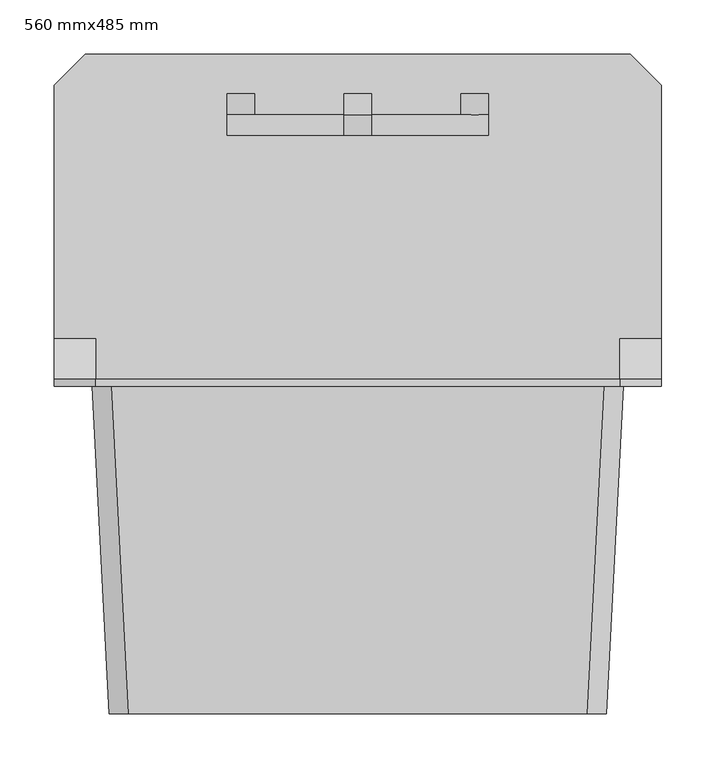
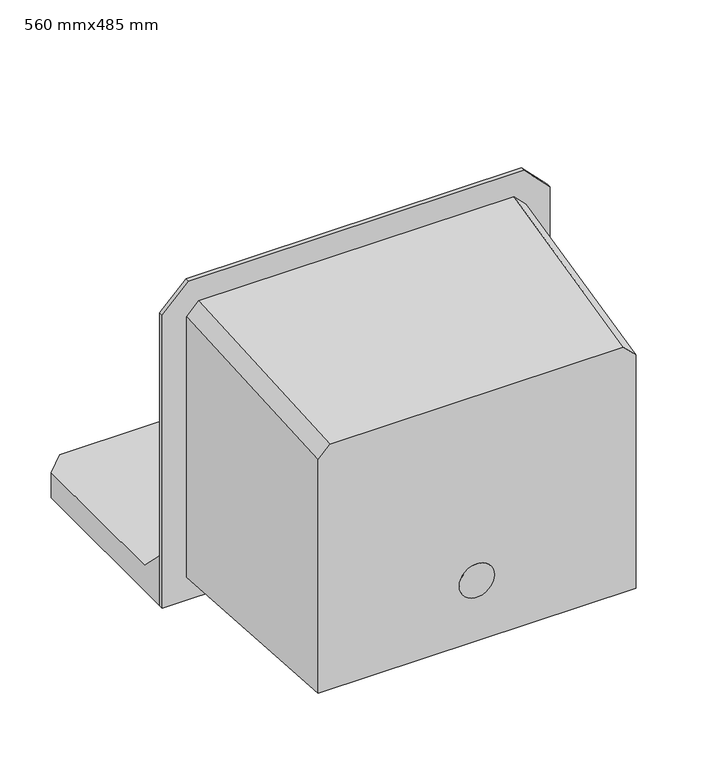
"""IFC4 building model written with IfcOpenShell, lengths in millimetres: flow terminal geometry, 洗涤池 - 服务用 : 560 mmx485 mm."""

from ifc_helpers import new_model, si_unit, point, frame, frame_2d, origin, place, context, project, spatial, circle_curve, trimmed, segment, composite_curve, outline, extrude, faceted_brep, source, transform, mapped, element, save
from ifc_brep_helpers import plane_surface, cylinder_surface, advanced_brep


def flow_terminal_560_mmx485_mm_975d8588(model_context):
    return source(origin(), model_context, "Body", "SolidModel", [
        extrude(outline(composite_curve([segment(trimmed(circle_curve(frame_2d((127.0, 0.0)), 25.4), [point((127.0, -25.4))], [point((127.0, 25.4))], False, "CARTESIAN"), True, "CONTINUOUS"), segment(trimmed(circle_curve(frame_2d((127.0, 0.0)), 25.4), [point((127.0, 25.4))], [point((127.0, -25.4))], False, "CARTESIAN"), True, "CONTINUOUS")], self_intersect=False)), frame((0.0, -308.175, 0.0), z_axis=(0.0, 1.0, 0.0), x_axis=(0.0, 0.0, 1.0)), (0.0, 0.0, 1.0), 3.175),
        faceted_brep([(211.7375, -308.175, 408.8), (-211.7375, -308.175, 408.8), (-229.2, -308.175, 391.3375), (-229.2, -308.175, 34.925), (229.2, -308.175, 34.925), (229.2, -308.175, 391.3375), (245.075, -6.35, 432.4335913), (227.4335913, -6.35, 450.075), (245.075, -6.35, 34.925), (-245.075, -6.35, 34.925), (-245.075, -6.35, 432.4335913), (-227.4335913, -6.35, 450.075), (211.7375, -305.0, 405.625), (226.025, -305.0, 391.3375), (226.025, -305.0, 38.1), (-226.025, -305.0, 38.1), (-226.025, -305.0, 391.3375), (-211.7375, -305.0, 405.625), (226.1184633, -6.35, 446.9), (241.9, -6.35, 431.1184633), (241.9, -6.35, 38.1), (241.9, 0.0, 38.1), (-241.9, 0.0, 38.1), (-241.9, -6.35, 38.1), (-241.9, -6.35, 431.1184633), (-226.1184633, -6.35, 446.9), (241.9, -6.35, 485.0), (-241.9, -6.35, 485.0), (-280.0, -6.35, 446.9), (-280.0, -6.35, 0.0), (280.0, -6.35, 0.0), (280.0, -6.35, 446.9), (241.9, 0.0, 485.0), (280.0, 0.0, 446.9), (280.0, 0.0, 0.0), (-280.0, 0.0, 0.0), (-280.0, 0.0, 446.9), (-241.9, 0.0, 485.0), (226.1184633, 0.0, 446.9), (-226.1184633, 0.0, 446.9), (-241.9, 0.0, 431.1184633), (241.9, 0.0, 431.1184633)], [[[0, 1, 2, 3, 4, 5]], [[0, 5, 6, 7]], [[5, 4, 8, 6]], [[4, 3, 9, 8]], [[3, 2, 10, 9]], [[2, 1, 11, 10]], [[1, 0, 7, 11]], [[12, 13, 14, 15, 16, 17]], [[13, 12, 18, 19]], [[14, 13, 19, 20]], [[15, 14, 20, 21, 22, 23]], [[16, 15, 23, 24]], [[17, 16, 24, 25]], [[12, 17, 25, 18]], [[26, 27, 28, 29, 30, 31], [7, 6, 8, 9, 10, 11]], [[32, 33, 34, 35, 36, 37], [38, 39, 40, 22, 21, 41]], [[27, 26, 32, 37]], [[28, 27, 37, 36]], [[29, 28, 36, 35]], [[30, 29, 35, 34]], [[31, 30, 34, 33]], [[26, 31, 33, 32]], [[38, 41, 19, 18]], [[41, 21, 20, 19]], [[22, 40, 24, 23]], [[40, 39, 25, 24]], [[39, 38, 18, 25]]]),
        advanced_brep(
        [(95.25, 263.1, 88.9), (120.65, 263.1, 88.9), (120.65, 244.05, 88.9), (95.25, 244.05, 88.9), (107.95, 244.05, 101.6), (120.65, 225.0, 101.6), (-120.65, 225.0, 101.6), (-120.65, 225.0, 38.1), (-95.25, 225.0, 38.1), (-95.25, 225.0, 76.2), (95.25, 225.0, 76.2), (95.25, 225.0, 38.1), (120.65, 225.0, 38.1), (120.65, 244.05, 38.1), (95.25, 244.05, 38.1), (95.25, 244.05, 76.2), (12.7, 244.05, 76.2), (12.7, 244.05, 101.6), (-95.25, 244.05, 76.2), (-95.25, 244.05, 38.1), (-120.65, 244.05, 38.1), (-120.65, 244.05, 88.9), (-95.25, 244.05, 88.9), (-107.95, 244.05, 101.6), (-12.7, 244.05, 101.6), (-12.7, 244.05, 76.2), (120.65, 244.05, 101.6), (-120.65, 244.05, 101.6), (-12.7, 263.1, 76.2), (12.7, 263.1, 76.2), (-120.65, 263.1, 88.9), (-95.25, 263.1, 88.9), (12.7, 244.05, 190.5), (-12.7, 244.05, 190.5), (12.7, 244.05, 203.2), (0.0, 244.05, 203.2), (-12.7, 244.05, 203.2), (12.7, 263.1, 203.2), (-12.7, 263.1, 203.2), (-12.7, 225.0, 190.5), (12.7, 225.0, 190.5)],
        [
            (0, 1, circle_curve(frame((107.95, 263.1, 88.9), z_axis=(0.0, 1.0, 0.0), x_axis=(1.0, 0.0, 0.0)), 12.7)),
            (1, 0, circle_curve(frame((107.95, 263.1, 88.9), z_axis=(0.0, 1.0, 0.0), x_axis=(1.0, 0.0, 0.0)), 12.7)),
            (1, 2),
            (2, 3, circle_curve(frame((107.95, 244.05, 88.9), z_axis=(0.0, 1.0, 0.0), x_axis=(1.0, 0.0, 0.0)), 12.7)),
            (3, 0),
            (3, 4, circle_curve(frame((107.95, 244.05, 88.9), z_axis=(0.0, 1.0, 0.0), x_axis=(1.0, 0.0, 0.0)), 12.7)),
            (4, 2, circle_curve(frame((107.95, 244.05, 88.9), z_axis=(0.0, 1.0, 0.0), x_axis=(1.0, 0.0, 0.0)), 12.7)),
            (5, 6),
            (6, 7),
            (7, 8),
            (8, 9),
            (9, 10),
            (10, 11),
            (11, 12),
            (12, 5),
            (13, 14),
            (14, 15),
            (15, 16),
            (16, 17),
            (17, 4),
            (2, 13),
            (18, 19),
            (19, 20),
            (20, 21),
            (21, 22, circle_curve(frame((-107.95, 244.05, 88.9), z_axis=(0.0, -1.0, 0.0), x_axis=(1.0, 0.0, 0.0)), 12.7)),
            (22, 23, circle_curve(frame((-107.95, 244.05, 88.9), z_axis=(0.0, -1.0, 0.0), x_axis=(1.0, 0.0, 0.0)), 12.7)),
            (23, 24),
            (24, 25),
            (25, 18),
            (26, 2),
            (4, 26),
            (21, 27),
            (27, 23),
            (23, 21, circle_curve(frame((-107.95, 244.05, 88.9), z_axis=(0.0, -1.0, 0.0), x_axis=(1.0, 0.0, 0.0)), 12.7)),
            (5, 26),
            (17, 24),
            (27, 6),
            (20, 7),
            (19, 8),
            (18, 9),
            (25, 28),
            (28, 29),
            (29, 16),
            (15, 10),
            (14, 11),
            (13, 12),
            (30, 31, circle_curve(frame((-107.95, 263.1, 88.9), z_axis=(0.0, 1.0, 0.0), x_axis=(1.0, 0.0, 0.0)), 12.7)),
            (31, 30, circle_curve(frame((-107.95, 263.1, 88.9), z_axis=(0.0, 1.0, 0.0), x_axis=(1.0, 0.0, 0.0)), 12.7)),
            (31, 22),
            (21, 30),
            (17, 32),
            (32, 33, circle_curve(frame((0.0, 244.05, 190.5), z_axis=(0.0, 1.0, 0.0), x_axis=(1.0, 0.0, 0.0)), 12.7)),
            (33, 24),
            (34, 35),
            (35, 32, circle_curve(frame((0.0, 244.05, 190.5), z_axis=(0.0, 1.0, 0.0), x_axis=(1.0, 0.0, 0.0)), 12.7)),
            (32, 34),
            (35, 36),
            (36, 33),
            (33, 35, circle_curve(frame((0.0, 244.05, 190.5), z_axis=(0.0, 1.0, 0.0), x_axis=(1.0, 0.0, 0.0)), 12.7)),
            (37, 29),
            (28, 38),
            (38, 37),
            (38, 36),
            (34, 37),
            (39, 40, circle_curve(frame((0.0, 225.0, 190.5), z_axis=(0.0, -1.0, 0.0), x_axis=(1.0, 0.0, 0.0)), 12.7)),
            (40, 39, circle_curve(frame((0.0, 225.0, 190.5), z_axis=(0.0, -1.0, 0.0), x_axis=(1.0, 0.0, 0.0)), 12.7)),
            (39, 33),
            (32, 40),
        ],
        [
            plane_surface(frame((120.65, 263.1, 88.9), z_axis=(0.0, 1.0, 0.0), x_axis=(0.0, 0.0, -1.0))),
            cylinder_surface(frame((107.95, 263.1, 88.9), z_axis=(0.0, -1.0, 0.0), x_axis=(1.0, 0.0, 0.0)), 12.7),
            plane_surface(frame((-120.65, 225.0, 101.6), z_axis=(0.0, -1.0, 0.0), x_axis=(-1.0, 0.0, 0.0))),
            plane_surface(frame((-120.65, 244.05, 101.6), z_axis=(0.0, 1.0, 0.0), x_axis=(1.0, 0.0, 0.0))),
            plane_surface(frame((120.65, 225.0, 101.6), z_axis=(0.0, 0.0, 1.0), x_axis=(0.0, 1.0, 0.0))),
            plane_surface(frame((-120.65, 225.0, 101.6), z_axis=(-1.0, 0.0, 0.0), x_axis=(0.0, 1.0, 0.0))),
            plane_surface(frame((-120.65, 225.0, 38.1), z_axis=(0.0, 0.0, -1.0), x_axis=(0.0, 1.0, 0.0))),
            plane_surface(frame((-95.25, 225.0, 38.1), z_axis=(1.0, 0.0, 0.0), x_axis=(0.0, 1.0, 0.0))),
            plane_surface(frame((-95.25, 225.0, 76.2), z_axis=(0.0, 0.0, -1.0), x_axis=(0.0, 1.0, 0.0))),
            plane_surface(frame((95.25, 225.0, 76.2), z_axis=(-1.0, 0.0, 0.0), x_axis=(0.0, 1.0, 0.0))),
            plane_surface(frame((95.25, 225.0, 38.1), z_axis=(0.0, 0.0, -1.0), x_axis=(0.0, 1.0, 0.0))),
            plane_surface(frame((120.65, 225.0, 38.1), z_axis=(1.0, 0.0, 0.0), x_axis=(0.0, 1.0, 0.0))),
            plane_surface(frame((-95.25, 263.1, 88.9), z_axis=(0.0, 1.0, 0.0), x_axis=(0.0, 0.0, -1.0))),
            cylinder_surface(frame((-107.95, 263.1, 88.9), z_axis=(0.0, -1.0, 0.0), x_axis=(1.0, 0.0, 0.0)), 12.7),
            plane_surface(frame((-12.7, 244.05, 203.2), z_axis=(0.0, -1.0, 0.0), x_axis=(-1.0, 0.0, 0.0))),
            plane_surface(frame((-12.7, 263.1, 203.2), z_axis=(0.0, 1.0, 0.0), x_axis=(1.0, 0.0, 0.0))),
            plane_surface(frame((12.7, 244.05, 203.2), z_axis=(0.0, 0.0, 1.0), x_axis=(0.0, 1.0, 0.0))),
            plane_surface(frame((-12.7, 244.05, 203.2), z_axis=(-1.0, 0.0, 0.0), x_axis=(0.0, 1.0, 0.0))),
            plane_surface(frame((12.7, 244.05, 76.2), z_axis=(1.0, 0.0, 0.0), x_axis=(0.0, 1.0, 0.0))),
            plane_surface(frame((12.7, 225.0, 190.5), z_axis=(0.0, -1.0, 0.0), x_axis=(0.0, 0.0, 1.0))),
            cylinder_surface(frame((0.0, 244.05, 190.5), z_axis=(0.0, -1.0, 0.0), x_axis=(1.0, 0.0, 0.0)), 12.7),
        ],
        [
            (0, [[1, 2]]),
            (1, [[-2, 3, 4, 5]]),
            (1, [[-1, -5, 6, 7, -3]]),
            (2, [[8, 9, 10, 11, 12, 13, 14, 15]]),
            (3, [[16, 17, 18, 19, 20, -6, -4, 21]]),
            (3, [[22, 23, 24, 25, 26, 27, 28, 29]]),
            (3, [[30, -7, 31]]),
            (3, [[32, 33, 34]]),
            (4, [[-8, 35, -31, -20, 36, -27, -33, 37]]),
            (5, [[-9, -37, -32, -24, 38]]),
            (6, [[-10, -38, -23, 39]]),
            (7, [[-11, -39, -22, 40]]),
            (8, [[-12, -40, -29, 41, 42, 43, -18, 44]]),
            (9, [[-13, -44, -17, 45]]),
            (10, [[-14, -45, -16, 46]]),
            (11, [[-15, -46, -21, -30, -35]]),
            (12, [[47, 48]]),
            (13, [[-48, 49, -25, 50]]),
            (13, [[-47, -50, -34, -26, -49]]),
            (14, [[-36, 51, 52, 53]]),
            (14, [[54, 55, 56]]),
            (14, [[57, 58, 59]]),
            (15, [[60, -42, 61, 62]]),
            (16, [[-62, 63, -57, -54, 64]]),
            (17, [[-61, -41, -28, -53, -58, -63]]),
            (18, [[-60, -64, -56, -51, -19, -43]]),
            (19, [[65, 66]]),
            (20, [[-65, 67, -52, 68]]),
            (20, [[-66, -68, -55, -59, -67]]),
        ],
    ),
        faceted_brep([(251.425, 299.6125, 38.1), (-251.425, 299.6125, 38.1), (-280.0, 271.0375, 38.1), (-280.0, 38.1, 38.1), (-241.9, 38.1, 38.1), (-241.9, 0.0, 38.1), (241.9, 0.0, 38.1), (241.9, 38.1, 38.1), (280.0, 38.1, 38.1), (280.0, 271.0375, 38.1), (251.425, 299.6125, 0.0), (280.0, 271.0375, 0.0), (280.0, 0.0, 0.0), (-280.0, 0.0, 0.0), (-280.0, 271.0375, 0.0), (-251.425, 299.6125, 0.0), (-280.0, 0.0, 76.2), (280.0, 0.0, 76.2), (241.9, 0.0, 76.2), (-241.9, 0.0, 76.2)], [[[0, 1, 2, 3, 4, 5, 6, 7, 8, 9]], [[10, 11, 12, 13, 14, 15]], [[1, 0, 10, 15]], [[2, 1, 15, 14]], [[14, 13, 16, 3, 2]], [[13, 12, 17, 18, 6, 5, 19, 16]], [[12, 11, 9, 8, 17]], [[0, 9, 11, 10]], [[6, 18, 7]], [[17, 8, 7, 18]], [[4, 19, 5]], [[19, 4, 3, 16]]]),
    ])


if __name__ == "__main__":
    model = new_model("IFC4")
    model_context = context("Model", 3, world=origin())
    ifc_project = project(units=[si_unit("LENGTHUNIT", "METRE", prefix="MILLI")], contexts=[model_context])
    site = spatial("IfcSite", under=ifc_project)
    building = spatial("IfcBuilding", under=site)
    placement = place(None, origin())
    flow_terminal_560_mmx485_mm_shape = flow_terminal_560_mmx485_mm_975d8588(model_context)
    element("IfcFlowTerminal", 1, ObjectType="洗涤池 - 服务用 : 560 mmx485 mm", at=placement, inside=building, context=model_context, shape_type="MappedRepresentation", body=[
        mapped(flow_terminal_560_mmx485_mm_shape, transform((0.0, 0.0, 0.0), x_axis=(1.0, 0.0, 0.0), y_axis=(0.0, 1.0, 0.0), z_axis=(0.0, 0.0, 1.0))),
    ])
    save(model, "model.ifc")
